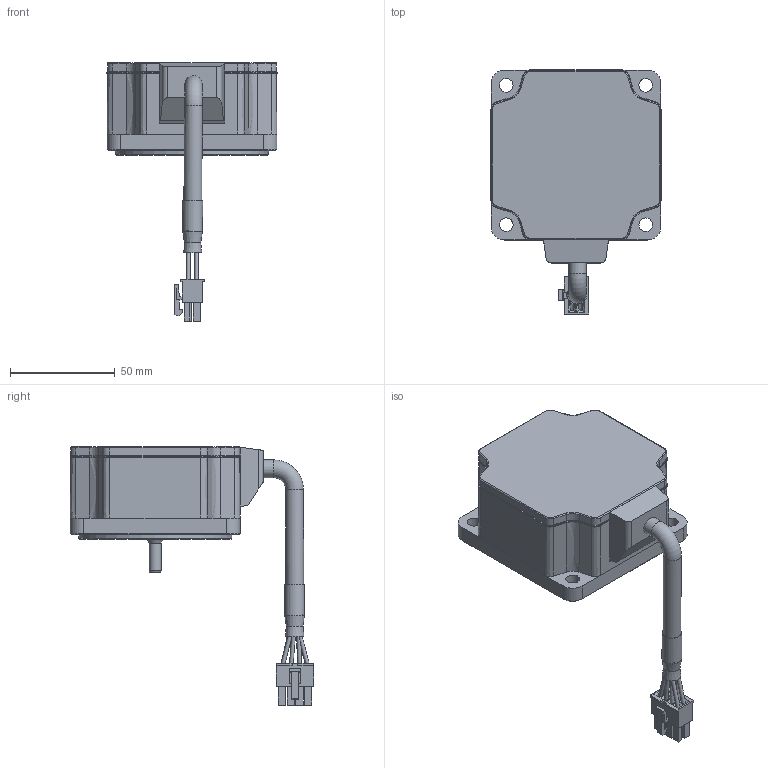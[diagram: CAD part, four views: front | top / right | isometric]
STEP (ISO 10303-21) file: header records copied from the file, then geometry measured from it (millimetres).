
FILE_DESCRIPTION((''),'2;1');
FILE_NAME('C:\Users\AHN\Desktop\BLDC 홈페이지용\K8XH50N2.stp','2020-08-20T17:21:09',('AHN'),(''),'Autodesk Inventor 2009','Autodesk Inventor 2009','');
FILE_SCHEMA(('AUTOMOTIVE_DESIGN { 1 0 10303 214 1 1 1 1 }'));
Length unit declared in the file: inch
Products named in the file (7): K8LH50N2; Solid1_1; Solid11_1; x타입 케이블; 부품35_1; 부품35_2; 하우징
Assembly tree (6 placements, depth 3):
  K8LH50N2
    Solid1_1
    Solid11_1
    x타입 케이블
      부품35_1
      부품35_2
      하우징
Bounding box: 81.1 x 116.26 x 123.27 mm (x, y, z)
Volume: 258516.1 mm3; surface area: 46644.8 mm2
Topology: 4 solids, 13 shells, 520 faces, 1337 edges, 855 vertices
Faces by surface type: plane 386, cylinder 81, cone 27, torus 14, bspline 12
Full cylindrical faces by diameter (mm): 1.75 x10, 3.5 x8, 5.7 x1, 6.5 x4, 8.5 x2, 9 x1, 9.4 x1, 10 x1, 73 x1, 75 x1
Entity records: 15749 total; most frequent: CARTESIAN_POINT 3066, ORIENTED_EDGE 2560, DIRECTION 2514, EDGE_CURVE 1280, VECTOR 1028, LINE 1028, VERTEX_POINT 844, AXIS2_PLACEMENT_3D 743
